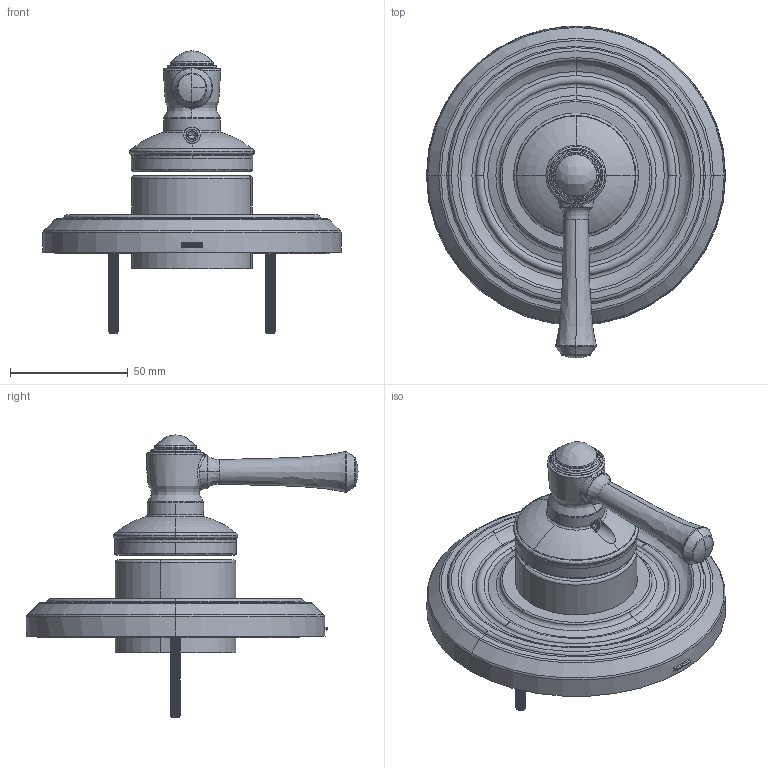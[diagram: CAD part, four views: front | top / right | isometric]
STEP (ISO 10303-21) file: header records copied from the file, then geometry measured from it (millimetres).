
FILE_DESCRIPTION (( 'STEP AP214' ), '1' );
FILE_NAME ('58DIVTRM.STEP', '2025-01-06T05:05:20', ( '' ), ( '' ), 'SwSTEP 2.0', 'SolidWorks 2023', '' );
FILE_SCHEMA (( 'AUTOMOTIVE_DESIGN' ));
Length unit declared in the file: inch
Products named in the file (1): 58DIVTRM
Bounding box: 127 x 140.93 x 119.86 mm (x, y, z)
Surface area: 76684.7 mm2 (no closed solid volume)
Topology: 0 solids, 70 shells, 1050 faces, 2724 edges, 1715 vertices
Faces by surface type: cylinder 519, cone 279, plane 146, bspline 61, torus 45
Entity records: 45536 total; most frequent: CARTESIAN_POINT 21208, ORIENTED_EDGE 5073, DIRECTION 4832, EDGE_CURVE 2719, AXIS2_PLACEMENT_3D 1885, VERTEX_POINT 1715, EDGE_LOOP 1105, VECTOR 1062
